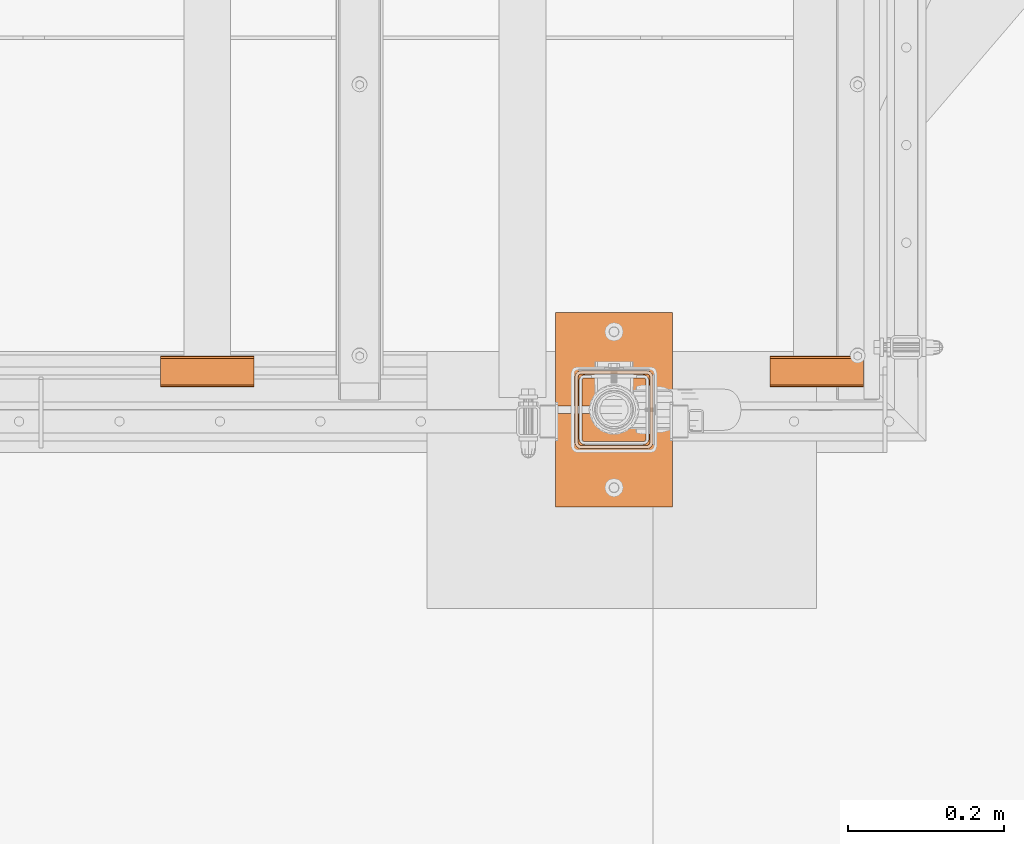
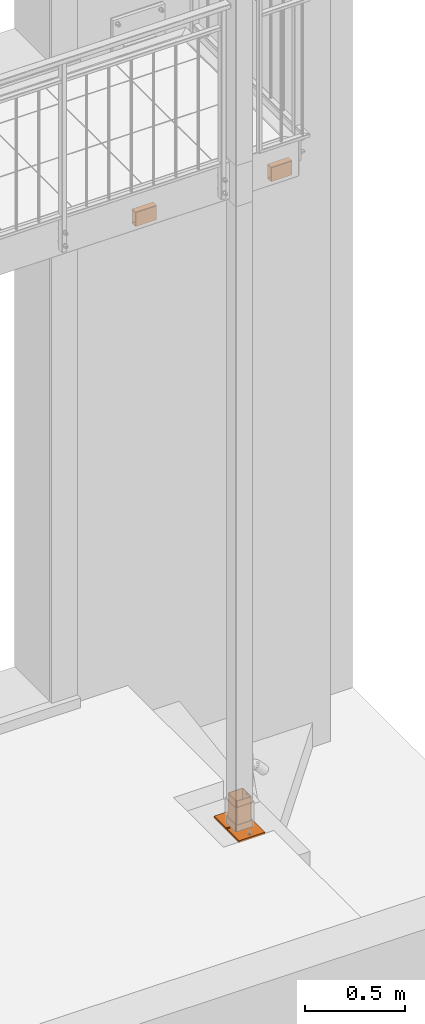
# One storey, part 91 of 162: 4 proxies.
"""IFC2X3 building model written with IfcOpenShell, lengths in millimetres."""

import ifcopenshell
import ifcopenshell.guid

model = None  # the IFC model being written
_history = None  # IfcOwnerHistory: only IFC2X3 demands one
_inside = {}  # id of a spatial element -> (the spatial element, [elements in it])
_under = {}  # id of a project, library or spatial element -> (it, [spatial elements below it])
_declared = {}  # id of a project -> (the project, [libraries it declares])
_typed = {}  # id of a type object -> (the type object, [elements of that type])
_made_of = {}  # id of a material, layer set ... -> (it, [elements and type objects made of it])


def new_model(schema):
    """Start an empty IFC model of exactly this schema.

    Asked for "IFC4X3", IfcOpenShell would pick the latest addendum, in which some entities
    have other attributes; the version numbers below select the first issue.
    IFC2X3 requires an IfcOwnerHistory on every rooted entity: one is made here for all.
    """
    global model, _history
    if schema == "IFC4X3":
        model = ifcopenshell.file(schema_version=(4, 3, 0, 0))
    else:
        model = ifcopenshell.file(schema=schema)
    _inside.clear()
    _under.clear()
    _declared.clear()
    _typed.clear()
    _made_of.clear()
    _history = None
    if model.schema == "IFC2X3":
        org = make("IfcOrganization", Name="unknown")
        user = make(
            "IfcPersonAndOrganization",
            ThePerson=make("IfcPerson", FamilyName="unknown"),
            TheOrganization=org,
        )
        app = make(
            "IfcApplication",
            ApplicationDeveloper=org,
            Version="unknown",
            ApplicationFullName="unknown",
            ApplicationIdentifier="unknown",
        )
        _history = make(
            "IfcOwnerHistory",
            OwningUser=user,
            OwningApplication=app,
            ChangeAction="ADDED",
            CreationDate=0,
        )
    return model


def make(cls, **values):
    """One entity of the class cls with the attributes given. An attribute that is None is left unset."""
    return model.create_entity(
        cls, **{name: value for name, value in values.items() if value is not None}
    )


def entity(cls, *values):
    """Any entity or typed value of the class cls, its attributes in the order of the schema. None: left unset."""
    e = model.create_entity(cls)
    for i, value in enumerate(values):
        if value is not None:
            e[i] = value
    return e


def rooted(cls, **values):
    """An entity with a GlobalId (a new one), such as an element, a storey or a relation."""
    return make(cls, GlobalId=ifcopenshell.guid.new(), OwnerHistory=_history, **values)


def si_unit(unit_type, name, prefix=None):
    """IfcSIUnit, for example si_unit("LENGTHUNIT", "METRE", prefix="MILLI")."""
    return make("IfcSIUnit", UnitType=unit_type, Prefix=prefix, Name=name)


def converted_unit(unit_type, name, factor, base, dimensions=None, offset=None):
    """IfcConversionBasedUnit, such as the inch: factor (a typed value) times the base unit."""
    return make(
        "IfcConversionBasedUnit"
        if offset is None
        else "IfcConversionBasedUnitWithOffset",
        ConversionOffset=offset,
        Dimensions=None
        if dimensions is None
        else entity("IfcDimensionalExponents", *dimensions),
        UnitType=unit_type,
        Name=name,
        ConversionFactor=make(
            "IfcMeasureWithUnit", ValueComponent=factor, UnitComponent=base
        ),
    )


def assignment(units):
    """IfcUnitAssignment: the units of a project."""
    return None if units is None else make("IfcUnitAssignment", Units=units)


def point(xyz):
    """IfcCartesianPoint."""
    return None if xyz is None else make("IfcCartesianPoint", Coordinates=xyz)


def direction(xyz):
    """IfcDirection."""
    return None if xyz is None else make("IfcDirection", DirectionRatios=xyz)


def frame(location, z_axis=None, x_axis=None):
    """IfcAxis2Placement3D, a coordinate frame: its origin and axes. An axis left out is left unset."""
    return make(
        "IfcAxis2Placement3D",
        Location=point(location),
        Axis=direction(z_axis),
        RefDirection=direction(x_axis),
    )


def origin_with_axes():
    """The frame at (0, 0, 0) with the z axis (0, 0, 1) and the x axis (1, 0, 0) written out."""
    return frame((0.0, 0.0, 0.0), z_axis=(0.0, 0.0, 1.0), x_axis=(1.0, 0.0, 0.0))


def place(relative_to, where):
    """IfcLocalPlacement: puts the frame where relative to a parent placement (None: the world)."""
    return make(
        "IfcLocalPlacement", PlacementRelTo=relative_to, RelativePlacement=where
    )


def context(
    kind, dimensions, precision=None, world=None, true_north=None, identifier=None
):
    """IfcGeometricRepresentationContext, for example the 3D "Model" context."""
    return make(
        "IfcGeometricRepresentationContext",
        ContextIdentifier=identifier,
        ContextType=kind,
        CoordinateSpaceDimension=dimensions,
        Precision=precision,
        WorldCoordinateSystem=world,
        TrueNorth=true_north,
    )


def project(units=None, contexts=None):
    """IfcProject with its units and contexts."""
    return rooted(
        "IfcProject",
        Name="project",
        RepresentationContexts=contexts,
        UnitsInContext=assignment(units),
    )


def spatial(cls, under=None, at=None, **own):
    """A site, building, storey or space (cls), placed at a placement, below another one or the project."""
    s = rooted(cls, ObjectPlacement=at, **own)
    if under is not None:
        _under.setdefault(under.id(), (under, []))[1].append(s)
    return s


def faces_of(points, faces, orient=None, outer=None):
    """IfcFace entities. A face is a list of loops; a loop is a list of indices into points, from 0.

    orient and outer hold one flag for each loop. By default every Orientation is true, the
    first loop of a face is its IfcFaceOuterBound and the others are IfcFaceBound.
    """
    made = []
    for i, loops in enumerate(faces):
        bounds = []
        for j, loop in enumerate(loops):
            is_outer = j == 0 if outer is None else outer[i][j]
            bounds.append(
                make(
                    "IfcFaceOuterBound" if is_outer else "IfcFaceBound",
                    Bound=make("IfcPolyLoop", Polygon=[points[k] for k in loop]),
                    Orientation=True if orient is None else orient[i][j],
                )
            )
        made.append(make("IfcFace", Bounds=bounds))
    return made


def faceted_brep(points, faces, orient=None, outer=None, voids=None):
    """IfcFacetedBrep: a solid bounded by flat faces; with voids (closed shells), ...WithVoids."""
    shared = [point(p) for p in points]
    hull = make("IfcClosedShell", CfsFaces=faces_of(shared, faces, orient, outer))
    if voids is None:
        return make("IfcFacetedBrep", Outer=hull)
    return make(
        "IfcFacetedBrepWithVoids",
        Outer=hull,
        Voids=[
            make(cls, CfsFaces=faces_of(shared, fs, o, b)) for cls, fs, o, b in voids
        ],
    )


def shape(context_of_items, identifier, shape_type, items):
    """IfcShapeRepresentation: the items that make up one representation, for example the "Body"."""
    return make(
        "IfcShapeRepresentation",
        ContextOfItems=context_of_items,
        RepresentationIdentifier=identifier,
        RepresentationType=shape_type,
        Items=items,
    )


def material(Name=None, Category=None):
    """IfcMaterial."""
    return make("IfcMaterial", Name=Name, Category=Category)


def made_of(thing, what):
    """Note that an element or type object is made of a material, layer set ...; save() writes the relation."""
    if what is not None:
        _made_of.setdefault(what.id(), (what, []))[1].append(thing)
    return thing


def element(
    cls,
    number,
    at=None,
    inside=None,
    cuts=None,
    type_object=None,
    material=None,
    context=None,
    identifier="Body",
    shape_type=None,
    held_by="IfcProductDefinitionShape",
    body=None,
    shapes=None,
    **own,
):
    """One element of the class cls, such as IfcWall. Its Tag is "e" and its number.

    at: its placement. inside: the storey or other place that contains it. cuts: it is an
    opening in that element (IfcRelVoidsElement). A single representation is given by context,
    identifier, shape_type and body (its items); several are given by shapes. held_by: the class
    of the entity that holds the representations. save() writes the other relations.
    """
    e = rooted(cls, Tag="e%d" % number, ObjectPlacement=at, **own)
    if body is not None:
        shapes = [shape(context, identifier, shape_type, body)]
    if shapes is not None:
        e.Representation = make(held_by, Representations=shapes)
    if inside is not None:
        _inside.setdefault(inside.id(), (inside, []))[1].append(e)
    if cuts is not None:
        rooted(
            "IfcRelVoidsElement", RelatingBuildingElement=cuts, RelatedOpeningElement=e
        )
    if type_object is not None:
        _typed.setdefault(type_object.id(), (type_object, []))[1].append(e)
    return made_of(e, material)


def aggregate(whole, parts):
    """IfcRelAggregates: a whole, such as a stair, and the parts it consists of."""
    return rooted("IfcRelAggregates", RelatingObject=whole, RelatedObjects=parts)


def save(model, path):
    """Write the relations noted so far, then the file.

    IfcRelAggregates (storeys below a building ...), IfcRelContainedInSpatialStructure (elements
    in a storey), IfcRelDefinesByType, IfcRelAssociatesMaterial and IfcRelDeclares: one each for
    every whole, place, type object, material and project.
    """
    for whole, parts in _under.values():
        aggregate(whole, parts)
    for where, things in _inside.values():
        rooted(
            "IfcRelContainedInSpatialStructure",
            RelatedElements=things,
            RelatingStructure=where,
        )
    for kind, things in _typed.values():
        rooted("IfcRelDefinesByType", RelatedObjects=things, RelatingType=kind)
    for what, things in _made_of.values():
        rooted("IfcRelAssociatesMaterial", RelatedObjects=things, RelatingMaterial=what)
    for by, libraries in _declared.values():
        rooted("IfcRelDeclares", RelatingContext=by, RelatedDefinitions=libraries)
    model.write(path)


model = new_model("IFC2X3")

# Units and contexts
model_context = context("Model", 3, precision=1e-09, world=origin_with_axes())
ifc_project = project(units=[si_unit("LENGTHUNIT", "METRE", prefix="MILLI"), si_unit("AREAUNIT", "SQUARE_METRE"), si_unit("VOLUMEUNIT", "CUBIC_METRE"), converted_unit("PLANEANGLEUNIT", "DEGREE", entity("IfcPlaneAngleMeasure", 0.01745329), si_unit("PLANEANGLEUNIT", "RADIAN"), dimensions=[0, 0, 0, 0, 0, 0, 0])], contexts=[model_context])

# Site, building, storey
site_placement = place(None, origin_with_axes())
site = spatial("IfcSite", under=ifc_project, at=site_placement, Name="Hermannstra?e 1a, 60318 Frankfurt", CompositionType="ELEMENT")
building_placement = place(site_placement, origin_with_axes())
building = spatial("IfcBuilding", under=site, at=building_placement, Name="Struktur 1", CompositionType="ELEMENT")
storey_placement = place(building_placement, origin_with_axes())
storey = spatial("IfcBuildingStorey", under=building, at=storey_placement, Name="Default Storey", CompositionType="ELEMENT", Elevation=0.0)

# Proxies
ifc_material_1 = material(Name="Kein")
proxy_1_placement = place(None, origin_with_axes())
element("IfcBuildingElementProxy", 1, at=proxy_1_placement, inside=storey, material=ifc_material_1, ObjectType="-", context=model_context, shape_type="Brep", body=[
    faceted_brep([(5427.845263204, 1486.609373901, -98.0), (5427.845263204, 1486.609373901, -78.0), (5429.30936482, 1485.145272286, -78.0), (5429.30936482, 1485.145272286, -98.0), (5424.381161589, 1484.609373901, -98.0), (5423.30936482, 1488.609373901, -98.0), (5423.30936482, 1572.609373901, -98.0), (5424.381161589, 1576.609373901, -98.0), (5427.30936482, 1579.537577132, -98.0), (5431.30936482, 1580.609373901, -98.0), (5515.30936482, 1580.609373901, -98.0), (5519.30936482, 1579.537577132, -98.0), (5522.23756805, 1576.609373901, -98.0), (5523.30936482, 1572.609373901, -98.0), (5523.30936482, 1488.609373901, -98.0), (5522.23756805, 1484.609373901, -98.0), (5519.30936482, 1481.681170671, -98.0), (5515.30936482, 1480.609373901, -98.0), (5431.30936482, 1480.609373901, -98.0), (5427.30936482, 1481.681170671, -98.0), (5427.30936482, 1572.609373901, -98.0), (5427.30936482, 1488.609373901, -98.0), (5431.30936482, 1484.609373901, -98.0), (5515.30936482, 1484.609373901, -98.0), (5517.30936482, 1485.145272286, -98.0), (5518.773466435, 1486.609373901, -98.0), (5519.30936482, 1488.609373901, -98.0), (5519.30936482, 1572.609373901, -98.0), (5518.773466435, 1574.609373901, -98.0), (5517.30936482, 1576.073475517, -98.0), (5515.30936482, 1576.609373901, -98.0), (5431.30936482, 1576.609373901, -98.0), (5429.30936482, 1576.073475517, -98.0), (5427.845263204, 1574.609373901, -98.0), (5424.381161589, 1484.609373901, -78.0), (5427.30936482, 1481.681170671, -78.0), (5431.30936482, 1480.609373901, -78.0), (5515.30936482, 1480.609373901, -78.0), (5519.30936482, 1481.681170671, -78.0), (5522.23756805, 1484.609373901, -78.0), (5523.30936482, 1488.609373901, -78.0), (5523.30936482, 1572.609373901, -78.0), (5522.23756805, 1576.609373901, -78.0), (5519.30936482, 1579.537577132, -78.0), (5515.30936482, 1580.609373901, -78.0), (5431.30936482, 1580.609373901, -78.0), (5427.30936482, 1579.537577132, -78.0), (5424.381161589, 1576.609373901, -78.0), (5423.30936482, 1572.609373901, -78.0), (5423.30936482, 1488.609373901, -78.0), (5431.30936482, 1484.609373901, -78.0), (5427.30936482, 1488.609373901, -78.0), (5427.30936482, 1572.609373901, -78.0), (5427.845263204, 1574.609373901, -78.0), (5429.30936482, 1576.073475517, -78.0), (5431.30936482, 1576.609373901, -78.0), (5515.30936482, 1576.609373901, -78.0), (5517.30936482, 1576.073475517, -78.0), (5518.773466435, 1574.609373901, -78.0), (5519.30936482, 1572.609373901, -78.0), (5519.30936482, 1488.609373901, -78.0), (5518.773466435, 1486.609373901, -78.0), (5517.30936482, 1485.145272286, -78.0), (5515.30936482, 1484.609373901, -78.0)], [[[0, 1, 2, 3]], [[4, 5, 6, 7, 8, 9, 10, 11, 12, 13, 14, 15, 16, 17, 18, 19], [20, 21, 0, 3, 22, 23, 24, 25, 26, 27, 28, 29, 30, 31, 32, 33]], [[34, 35, 36, 37, 38, 39, 40, 41, 42, 43, 44, 45, 46, 47, 48, 49], [50, 2, 1, 51, 52, 53, 54, 55, 56, 57, 58, 59, 60, 61, 62, 63]], [[34, 4, 19, 35]], [[1, 0, 21, 51]], [[4, 34, 49, 5]], [[35, 19, 18, 36]], [[3, 2, 50, 22]], [[21, 20, 52, 51]], [[49, 48, 6, 5]], [[18, 17, 37, 36]], [[50, 63, 23, 22]], [[52, 20, 33, 53]], [[6, 48, 47, 7]], [[37, 17, 16, 38]], [[23, 63, 62, 24]], [[53, 33, 32, 54]], [[7, 47, 46, 8]], [[38, 16, 15, 39]], [[24, 62, 61, 25]], [[54, 32, 31, 55]], [[25, 61, 60, 26]], [[8, 46, 45, 9]], [[39, 15, 14, 40]], [[60, 59, 27, 26]], [[31, 30, 56, 55]], [[45, 44, 10, 9]], [[58, 28, 27, 59]], [[14, 13, 41, 40]], [[28, 58, 57, 29]], [[29, 57, 56, 30]], [[10, 44, 43, 11]], [[41, 13, 12, 42]], [[11, 43, 42, 12]]]),
    faceted_brep([(5427.845263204, 1486.609373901, -78.0), (5427.845263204, 1486.609373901, -68.0), (5429.30936482, 1485.145272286, -68.0), (5429.30936482, 1485.145272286, -78.0), (5424.381161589, 1484.609373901, -78.0), (5423.30936482, 1488.609373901, -78.0), (5423.30936482, 1572.609373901, -78.0), (5424.381161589, 1576.609373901, -78.0), (5427.30936482, 1579.537577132, -78.0), (5431.30936482, 1580.609373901, -78.0), (5515.30936482, 1580.609373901, -78.0), (5519.30936482, 1579.537577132, -78.0), (5522.23756805, 1576.609373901, -78.0), (5523.30936482, 1572.609373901, -78.0), (5523.30936482, 1488.609373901, -78.0), (5522.23756805, 1484.609373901, -78.0), (5519.30936482, 1481.681170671, -78.0), (5515.30936482, 1480.609373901, -78.0), (5431.30936482, 1480.609373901, -78.0), (5427.30936482, 1481.681170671, -78.0), (5427.30936482, 1572.609373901, -78.0), (5427.30936482, 1488.609373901, -78.0), (5431.30936482, 1484.609373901, -78.0), (5515.30936482, 1484.609373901, -78.0), (5517.30936482, 1485.145272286, -78.0), (5518.773466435, 1486.609373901, -78.0), (5519.30936482, 1488.609373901, -78.0), (5519.30936482, 1572.609373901, -78.0), (5518.773466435, 1574.609373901, -78.0), (5517.30936482, 1576.073475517, -78.0), (5515.30936482, 1576.609373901, -78.0), (5431.30936482, 1576.609373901, -78.0), (5429.30936482, 1576.073475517, -78.0), (5427.845263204, 1574.609373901, -78.0), (5424.381161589, 1484.609373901, -68.0), (5427.30936482, 1481.681170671, -68.0), (5431.30936482, 1480.609373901, -68.0), (5515.30936482, 1480.609373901, -68.0), (5519.30936482, 1481.681170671, -68.0), (5522.23756805, 1484.609373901, -68.0), (5523.30936482, 1488.609373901, -68.0), (5523.30936482, 1572.609373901, -68.0), (5522.23756805, 1576.609373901, -68.0), (5519.30936482, 1579.537577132, -68.0), (5515.30936482, 1580.609373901, -68.0), (5431.30936482, 1580.609373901, -68.0), (5427.30936482, 1579.537577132, -68.0), (5424.381161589, 1576.609373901, -68.0), (5423.30936482, 1572.609373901, -68.0), (5423.30936482, 1488.609373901, -68.0), (5431.30936482, 1484.609373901, -68.0), (5427.30936482, 1488.609373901, -68.0), (5427.30936482, 1572.609373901, -68.0), (5427.845263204, 1574.609373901, -68.0), (5429.30936482, 1576.073475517, -68.0), (5431.30936482, 1576.609373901, -68.0), (5515.30936482, 1576.609373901, -68.0), (5517.30936482, 1576.073475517, -68.0), (5518.773466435, 1574.609373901, -68.0), (5519.30936482, 1572.609373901, -68.0), (5519.30936482, 1488.609373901, -68.0), (5518.773466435, 1486.609373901, -68.0), (5517.30936482, 1485.145272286, -68.0), (5515.30936482, 1484.609373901, -68.0)], [[[0, 1, 2, 3]], [[4, 5, 6, 7, 8, 9, 10, 11, 12, 13, 14, 15, 16, 17, 18, 19], [20, 21, 0, 3, 22, 23, 24, 25, 26, 27, 28, 29, 30, 31, 32, 33]], [[34, 35, 36, 37, 38, 39, 40, 41, 42, 43, 44, 45, 46, 47, 48, 49], [50, 2, 1, 51, 52, 53, 54, 55, 56, 57, 58, 59, 60, 61, 62, 63]], [[34, 4, 19, 35]], [[1, 0, 21, 51]], [[4, 34, 49, 5]], [[35, 19, 18, 36]], [[3, 2, 50, 22]], [[21, 20, 52, 51]], [[49, 48, 6, 5]], [[18, 17, 37, 36]], [[50, 63, 23, 22]], [[52, 20, 33, 53]], [[6, 48, 47, 7]], [[37, 17, 16, 38]], [[23, 63, 62, 24]], [[53, 33, 32, 54]], [[7, 47, 46, 8]], [[38, 16, 15, 39]], [[24, 62, 61, 25]], [[54, 32, 31, 55]], [[25, 61, 60, 26]], [[8, 46, 45, 9]], [[39, 15, 14, 40]], [[60, 59, 27, 26]], [[31, 30, 56, 55]], [[45, 44, 10, 9]], [[58, 28, 27, 59]], [[14, 13, 41, 40]], [[28, 58, 57, 29]], [[29, 57, 56, 30]], [[10, 44, 43, 11]], [[41, 13, 12, 42]], [[11, 43, 42, 12]]]),
    faceted_brep([(5427.845263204, 1486.609373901, -68.0), (5427.845263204, 1486.609373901, -63.0), (5429.30936482, 1485.145272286, -63.0), (5429.30936482, 1485.145272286, -68.0), (5424.381161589, 1484.609373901, -68.0), (5423.30936482, 1488.609373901, -68.0), (5423.30936482, 1572.609373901, -68.0), (5424.381161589, 1576.609373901, -68.0), (5427.30936482, 1579.537577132, -68.0), (5431.30936482, 1580.609373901, -68.0), (5515.30936482, 1580.609373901, -68.0), (5519.30936482, 1579.537577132, -68.0), (5522.23756805, 1576.609373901, -68.0), (5523.30936482, 1572.609373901, -68.0), (5523.30936482, 1488.609373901, -68.0), (5522.23756805, 1484.609373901, -68.0), (5519.30936482, 1481.681170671, -68.0), (5515.30936482, 1480.609373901, -68.0), (5431.30936482, 1480.609373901, -68.0), (5427.30936482, 1481.681170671, -68.0), (5427.30936482, 1572.609373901, -68.0), (5427.30936482, 1488.609373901, -68.0), (5431.30936482, 1484.609373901, -68.0), (5515.30936482, 1484.609373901, -68.0), (5517.30936482, 1485.145272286, -68.0), (5518.773466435, 1486.609373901, -68.0), (5519.30936482, 1488.609373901, -68.0), (5519.30936482, 1572.609373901, -68.0), (5518.773466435, 1574.609373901, -68.0), (5517.30936482, 1576.073475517, -68.0), (5515.30936482, 1576.609373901, -68.0), (5431.30936482, 1576.609373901, -68.0), (5429.30936482, 1576.073475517, -68.0), (5427.845263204, 1574.609373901, -68.0), (5424.381161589, 1484.609373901, -63.0), (5427.30936482, 1481.681170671, -63.0), (5431.30936482, 1480.609373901, -63.0), (5515.30936482, 1480.609373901, -63.0), (5519.30936482, 1481.681170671, -63.0), (5522.23756805, 1484.609373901, -63.0), (5523.30936482, 1488.609373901, -63.0), (5523.30936482, 1572.609373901, -63.0), (5522.23756805, 1576.609373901, -63.0), (5519.30936482, 1579.537577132, -63.0), (5515.30936482, 1580.609373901, -63.0), (5431.30936482, 1580.609373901, -63.0), (5427.30936482, 1579.537577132, -63.0), (5424.381161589, 1576.609373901, -63.0), (5423.30936482, 1572.609373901, -63.0), (5423.30936482, 1488.609373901, -63.0), (5431.30936482, 1484.609373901, -63.0), (5427.30936482, 1488.609373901, -63.0), (5427.30936482, 1572.609373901, -63.0), (5427.845263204, 1574.609373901, -63.0), (5429.30936482, 1576.073475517, -63.0), (5431.30936482, 1576.609373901, -63.0), (5515.30936482, 1576.609373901, -63.0), (5517.30936482, 1576.073475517, -63.0), (5518.773466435, 1574.609373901, -63.0), (5519.30936482, 1572.609373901, -63.0), (5519.30936482, 1488.609373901, -63.0), (5518.773466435, 1486.609373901, -63.0), (5517.30936482, 1485.145272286, -63.0), (5515.30936482, 1484.609373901, -63.0)], [[[0, 1, 2, 3]], [[4, 5, 6, 7, 8, 9, 10, 11, 12, 13, 14, 15, 16, 17, 18, 19], [20, 21, 0, 3, 22, 23, 24, 25, 26, 27, 28, 29, 30, 31, 32, 33]], [[34, 35, 36, 37, 38, 39, 40, 41, 42, 43, 44, 45, 46, 47, 48, 49], [50, 2, 1, 51, 52, 53, 54, 55, 56, 57, 58, 59, 60, 61, 62, 63]], [[34, 4, 19, 35]], [[1, 0, 21, 51]], [[4, 34, 49, 5]], [[35, 19, 18, 36]], [[3, 2, 50, 22]], [[21, 20, 52, 51]], [[49, 48, 6, 5]], [[18, 17, 37, 36]], [[50, 63, 23, 22]], [[52, 20, 33, 53]], [[6, 48, 47, 7]], [[37, 17, 16, 38]], [[23, 63, 62, 24]], [[53, 33, 32, 54]], [[7, 47, 46, 8]], [[38, 16, 15, 39]], [[24, 62, 61, 25]], [[54, 32, 31, 55]], [[25, 61, 60, 26]], [[8, 46, 45, 9]], [[39, 15, 14, 40]], [[60, 59, 27, 26]], [[31, 30, 56, 55]], [[45, 44, 10, 9]], [[58, 28, 27, 59]], [[14, 13, 41, 40]], [[28, 58, 57, 29]], [[29, 57, 56, 30]], [[10, 44, 43, 11]], [[41, 13, 12, 42]], [[11, 43, 42, 12]]]),
    faceted_brep([(5427.845263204, 1486.609373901, -63.0), (5427.845263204, 1486.609373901, -60.0), (5429.30936482, 1485.145272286, -60.0), (5429.30936482, 1485.145272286, -63.0), (5424.381161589, 1484.609373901, -63.0), (5423.30936482, 1488.609373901, -63.0), (5423.30936482, 1572.609373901, -63.0), (5424.381161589, 1576.609373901, -63.0), (5427.30936482, 1579.537577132, -63.0), (5431.30936482, 1580.609373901, -63.0), (5515.30936482, 1580.609373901, -63.0), (5519.30936482, 1579.537577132, -63.0), (5522.23756805, 1576.609373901, -63.0), (5523.30936482, 1572.609373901, -63.0), (5523.30936482, 1488.609373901, -63.0), (5522.23756805, 1484.609373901, -63.0), (5519.30936482, 1481.681170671, -63.0), (5515.30936482, 1480.609373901, -63.0), (5431.30936482, 1480.609373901, -63.0), (5427.30936482, 1481.681170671, -63.0), (5427.30936482, 1572.609373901, -63.0), (5427.30936482, 1488.609373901, -63.0), (5431.30936482, 1484.609373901, -63.0), (5515.30936482, 1484.609373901, -63.0), (5517.30936482, 1485.145272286, -63.0), (5518.773466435, 1486.609373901, -63.0), (5519.30936482, 1488.609373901, -63.0), (5519.30936482, 1572.609373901, -63.0), (5518.773466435, 1574.609373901, -63.0), (5517.30936482, 1576.073475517, -63.0), (5515.30936482, 1576.609373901, -63.0), (5431.30936482, 1576.609373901, -63.0), (5429.30936482, 1576.073475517, -63.0), (5427.845263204, 1574.609373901, -63.0), (5424.381161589, 1484.609373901, -60.0), (5427.30936482, 1481.681170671, -60.0), (5431.30936482, 1480.609373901, -60.0), (5515.30936482, 1480.609373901, -60.0), (5519.30936482, 1481.681170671, -60.0), (5522.23756805, 1484.609373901, -60.0), (5523.30936482, 1488.609373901, -60.0), (5523.30936482, 1572.609373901, -60.0), (5522.23756805, 1576.609373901, -60.0), (5519.30936482, 1579.537577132, -60.0), (5515.30936482, 1580.609373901, -60.0), (5431.30936482, 1580.609373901, -60.0), (5427.30936482, 1579.537577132, -60.0), (5424.381161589, 1576.609373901, -60.0), (5423.30936482, 1572.609373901, -60.0), (5423.30936482, 1488.609373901, -60.0), (5431.30936482, 1484.609373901, -60.0), (5427.30936482, 1488.609373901, -60.0), (5427.30936482, 1572.609373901, -60.0), (5427.845263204, 1574.609373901, -60.0), (5429.30936482, 1576.073475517, -60.0), (5431.30936482, 1576.609373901, -60.0), (5515.30936482, 1576.609373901, -60.0), (5517.30936482, 1576.073475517, -60.0), (5518.773466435, 1574.609373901, -60.0), (5519.30936482, 1572.609373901, -60.0), (5519.30936482, 1488.609373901, -60.0), (5518.773466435, 1486.609373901, -60.0), (5517.30936482, 1485.145272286, -60.0), (5515.30936482, 1484.609373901, -60.0)], [[[0, 1, 2, 3]], [[4, 5, 6, 7, 8, 9, 10, 11, 12, 13, 14, 15, 16, 17, 18, 19], [20, 21, 0, 3, 22, 23, 24, 25, 26, 27, 28, 29, 30, 31, 32, 33]], [[34, 35, 36, 37, 38, 39, 40, 41, 42, 43, 44, 45, 46, 47, 48, 49], [50, 2, 1, 51, 52, 53, 54, 55, 56, 57, 58, 59, 60, 61, 62, 63]], [[34, 4, 19, 35]], [[1, 0, 21, 51]], [[4, 34, 49, 5]], [[35, 19, 18, 36]], [[3, 2, 50, 22]], [[21, 20, 52, 51]], [[49, 48, 6, 5]], [[18, 17, 37, 36]], [[50, 63, 23, 22]], [[52, 20, 33, 53]], [[6, 48, 47, 7]], [[37, 17, 16, 38]], [[23, 63, 62, 24]], [[53, 33, 32, 54]], [[7, 47, 46, 8]], [[38, 16, 15, 39]], [[24, 62, 61, 25]], [[54, 32, 31, 55]], [[25, 61, 60, 26]], [[8, 46, 45, 9]], [[39, 15, 14, 40]], [[60, 59, 27, 26]], [[31, 30, 56, 55]], [[45, 44, 10, 9]], [[58, 28, 27, 59]], [[14, 13, 41, 40]], [[28, 58, 57, 29]], [[29, 57, 56, 30]], [[10, 44, 43, 11]], [[41, 13, 12, 42]], [[11, 43, 42, 12]]]),
])
proxy_2_placement = place(None, origin_with_axes())
element("IfcBuildingElementProxy", 2, at=proxy_2_placement, inside=storey, material=ifc_material_1, ObjectType="-", context=model_context, shape_type="Brep", body=[
    faceted_brep([(5473.30936482, 1422.608373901, -98.0), (5473.30936482, 1422.608373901, -110.0), (5469.30886482, 1423.680304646, -110.0), (5469.30886482, 1423.680304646, -98.0), (5466.380295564, 1426.608873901, -110.0), (5466.380295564, 1426.608873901, -98.0), (5477.30986482, 1423.680304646, -98.0), (5477.30986482, 1423.680304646, -110.0), (5480.238434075, 1426.608873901, -98.0), (5480.238434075, 1426.608873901, -110.0), (5548.30936482, 1405.609373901, -98.0), (5548.30936482, 1525.609373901, -98.0), (5398.30936482, 1525.609373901, -98.0), (5398.30936482, 1405.609373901, -98.0), (5465.30836482, 1430.609373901, -98.0), (5466.380295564, 1434.609873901, -98.0), (5469.30886482, 1437.538443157, -98.0), (5473.30936482, 1438.610373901, -98.0), (5477.30986482, 1437.538443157, -98.0), (5480.238434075, 1434.609873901, -98.0), (5481.31036482, 1430.609373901, -98.0), (5465.30836482, 1430.609373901, -110.0), (5398.30936482, 1405.609373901, -110.0), (5398.30936482, 1525.609373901, -110.0), (5548.30936482, 1525.609373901, -110.0), (5548.30936482, 1405.609373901, -110.0), (5466.380295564, 1434.609873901, -110.0), (5481.31036482, 1430.609373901, -110.0), (5480.238434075, 1434.609873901, -110.0), (5477.30986482, 1437.538443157, -110.0), (5473.30936482, 1438.610373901, -110.0), (5469.30886482, 1437.538443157, -110.0)], [[[0, 1, 2, 3]], [[3, 2, 4, 5]], [[1, 0, 6, 7]], [[7, 6, 8, 9]], [[10, 11, 12, 13], [8, 6, 0, 3, 5, 14, 15, 16, 17, 18, 19, 20]], [[5, 4, 21, 14]], [[22, 23, 24, 25], [26, 21, 4, 2, 1, 7, 9, 27, 28, 29, 30, 31]], [[9, 8, 20, 27]], [[14, 21, 26, 15]], [[10, 13, 22, 25]], [[27, 20, 19, 28]], [[25, 24, 11, 10]], [[13, 12, 23, 22]], [[15, 26, 31, 16]], [[24, 23, 12, 11]], [[28, 19, 18, 29]], [[16, 31, 30, 17]], [[29, 18, 17, 30]]]),
    faceted_brep([(5473.30936482, 1622.608373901, -98.0), (5473.30936482, 1622.608373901, -110.0), (5469.30886482, 1623.680304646, -110.0), (5469.30886482, 1623.680304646, -98.0), (5466.380295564, 1626.608873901, -110.0), (5466.380295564, 1626.608873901, -98.0), (5548.30936482, 1535.609373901, -98.0), (5548.30936482, 1655.609373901, -98.0), (5398.30936482, 1655.609373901, -98.0), (5398.30936482, 1535.609373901, -98.0), (5480.238434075, 1626.608873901, -98.0), (5477.30986482, 1623.680304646, -98.0), (5465.30836482, 1630.609373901, -98.0), (5466.380295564, 1634.609873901, -98.0), (5469.30886482, 1637.538443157, -98.0), (5473.30936482, 1638.610373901, -98.0), (5477.30986482, 1637.538443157, -98.0), (5480.238434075, 1634.609873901, -98.0), (5481.31036482, 1630.609373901, -98.0), (5477.30986482, 1623.680304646, -110.0), (5465.30836482, 1630.609373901, -110.0), (5398.30936482, 1535.609373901, -110.0), (5398.30936482, 1655.609373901, -110.0), (5548.30936482, 1655.609373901, -110.0), (5548.30936482, 1535.609373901, -110.0), (5480.238434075, 1626.608873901, -110.0), (5481.31036482, 1630.609373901, -110.0), (5480.238434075, 1634.609873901, -110.0), (5477.30986482, 1637.538443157, -110.0), (5473.30936482, 1638.610373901, -110.0), (5469.30886482, 1637.538443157, -110.0), (5466.380295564, 1634.609873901, -110.0)], [[[0, 1, 2, 3]], [[3, 2, 4, 5]], [[6, 7, 8, 9], [10, 11, 0, 3, 5, 12, 13, 14, 15, 16, 17, 18]], [[1, 0, 11, 19]], [[5, 4, 20, 12]], [[21, 22, 23, 24], [20, 4, 2, 1, 19, 25, 26, 27, 28, 29, 30, 31]], [[19, 11, 10, 25]], [[12, 20, 31, 13]], [[21, 24, 6, 9]], [[9, 8, 22, 21]], [[24, 23, 7, 6]], [[25, 10, 18, 26]], [[13, 31, 30, 14]], [[26, 18, 17, 27]], [[8, 7, 23, 22]], [[14, 30, 29, 15]], [[27, 17, 16, 28]], [[15, 29, 28, 16]]]),
    faceted_brep([(5432.30936482, 1486.681170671, -98.0), (5432.30936482, 1486.681170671, 82.0), (5429.381161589, 1489.609373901, 82.0), (5429.381161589, 1489.609373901, -98.0), (5436.30936482, 1485.609373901, 82.0), (5510.30936482, 1485.609373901, 82.0), (5514.30936482, 1486.681170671, 82.0), (5517.23756805, 1489.609373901, 82.0), (5518.30936482, 1493.609373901, 82.0), (5518.30936482, 1567.609373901, 82.0), (5517.23756805, 1571.609373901, 82.0), (5514.30936482, 1574.537577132, 82.0), (5510.30936482, 1575.609373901, 82.0), (5436.30936482, 1575.609373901, 82.0), (5432.30936482, 1574.537577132, 82.0), (5429.381161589, 1571.609373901, 82.0), (5428.30936482, 1567.609373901, 82.0), (5428.30936482, 1493.609373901, 82.0), (5436.30936482, 1489.609373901, 82.0), (5434.30936482, 1490.145272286, 82.0), (5432.845263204, 1491.609373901, 82.0), (5432.30936482, 1493.609373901, 82.0), (5432.30936482, 1567.609373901, 82.0), (5432.845263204, 1569.609373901, 82.0), (5434.30936482, 1571.073475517, 82.0), (5436.30936482, 1571.609373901, 82.0), (5510.30936482, 1571.609373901, 82.0), (5512.30936482, 1571.073475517, 82.0), (5513.773466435, 1569.609373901, 82.0), (5514.30936482, 1567.609373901, 82.0), (5514.30936482, 1493.609373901, 82.0), (5513.773466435, 1491.609373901, 82.0), (5512.30936482, 1490.145272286, 82.0), (5510.30936482, 1489.609373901, 82.0), (5432.845263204, 1491.609373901, -98.0), (5434.30936482, 1490.145272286, -98.0), (5510.30936482, 1485.609373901, -98.0), (5436.30936482, 1485.609373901, -98.0), (5428.30936482, 1493.609373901, -98.0), (5428.30936482, 1567.609373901, -98.0), (5429.381161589, 1571.609373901, -98.0), (5432.30936482, 1574.537577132, -98.0), (5436.30936482, 1575.609373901, -98.0), (5510.30936482, 1575.609373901, -98.0), (5514.30936482, 1574.537577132, -98.0), (5517.23756805, 1571.609373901, -98.0), (5518.30936482, 1567.609373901, -98.0), (5518.30936482, 1493.609373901, -98.0), (5517.23756805, 1489.609373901, -98.0), (5514.30936482, 1486.681170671, -98.0), (5436.30936482, 1489.609373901, -98.0), (5510.30936482, 1489.609373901, -98.0), (5512.30936482, 1490.145272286, -98.0), (5513.773466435, 1491.609373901, -98.0), (5514.30936482, 1493.609373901, -98.0), (5514.30936482, 1567.609373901, -98.0), (5513.773466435, 1569.609373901, -98.0), (5512.30936482, 1571.073475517, -98.0), (5510.30936482, 1571.609373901, -98.0), (5436.30936482, 1571.609373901, -98.0), (5434.30936482, 1571.073475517, -98.0), (5432.845263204, 1569.609373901, -98.0), (5432.30936482, 1567.609373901, -98.0), (5432.30936482, 1493.609373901, -98.0), (5518.30936482, 1525.608373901, 72.0), (5514.30936482, 1525.608373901, 72.0), (5514.30936482, 1526.278380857, 74.5005), (5518.30936482, 1526.278380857, 74.5005), (5518.30936482, 1526.278380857, 69.4995), (5514.30936482, 1526.278380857, 69.4995), (5514.30936482, 1528.108873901, 76.330993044), (5518.30936482, 1528.108873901, 76.330993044), (5518.30936482, 1528.108873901, 67.669006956), (5518.30936482, 1530.609373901, 77.001), (5518.30936482, 1533.109873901, 76.330993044), (5518.30936482, 1534.940366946, 74.5005), (5518.30936482, 1535.610373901, 72.0), (5518.30936482, 1534.940366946, 69.4995), (5518.30936482, 1533.109873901, 67.669006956), (5518.30936482, 1530.609373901, 66.999), (5514.30936482, 1528.108873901, 67.669006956), (5514.30936482, 1530.609373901, 66.999), (5514.30936482, 1533.109873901, 67.669006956), (5514.30936482, 1534.940366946, 69.4995), (5514.30936482, 1535.610373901, 72.0), (5514.30936482, 1534.940366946, 74.5005), (5514.30936482, 1533.109873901, 76.330993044), (5514.30936482, 1530.609373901, 77.001)], [[[0, 1, 2, 3]], [[1, 4, 5, 6, 7, 8, 9, 10, 11, 12, 13, 14, 15, 16, 17, 2], [18, 19, 20, 21, 22, 23, 24, 25, 26, 27, 28, 29, 30, 31, 32, 33]], [[34, 20, 19, 35]], [[36, 37, 0, 3, 38, 39, 40, 41, 42, 43, 44, 45, 46, 47, 48, 49], [35, 50, 51, 52, 53, 54, 55, 56, 57, 58, 59, 60, 61, 62, 63, 34]], [[1, 0, 37, 4]], [[20, 34, 63, 21]], [[3, 2, 17, 38]], [[35, 19, 18, 50]], [[37, 36, 5, 4]], [[63, 62, 22, 21]], [[17, 16, 39, 38]], [[18, 33, 51, 50]], [[5, 36, 49, 6]], [[22, 62, 61, 23]], [[39, 16, 15, 40]], [[64, 65, 66, 67]], [[51, 33, 32, 52]], [[65, 64, 68, 69]], [[67, 66, 70, 71]], [[8, 47, 46, 9], [72, 68, 64, 67, 71, 73, 74, 75, 76, 77, 78, 79]], [[6, 49, 48, 7]], [[52, 32, 31, 53]], [[30, 29, 55, 54], [70, 66, 65, 69, 80, 81, 82, 83, 84, 85, 86, 87]], [[23, 61, 60, 24]], [[40, 15, 14, 41]], [[71, 70, 87, 73]], [[73, 87, 86, 74]], [[30, 54, 53, 31]], [[69, 68, 72, 80]], [[74, 86, 85, 75]], [[7, 48, 47, 8]], [[80, 72, 79, 81]], [[81, 79, 78, 82]], [[24, 60, 59, 25]], [[41, 14, 13, 42]], [[75, 85, 84, 76]], [[83, 77, 76, 84]], [[82, 78, 77, 83]], [[59, 58, 26, 25]], [[13, 12, 43, 42]], [[26, 58, 57, 27]], [[55, 29, 28, 56]], [[56, 28, 27, 57]], [[43, 12, 11, 44]], [[9, 46, 45, 10]], [[44, 11, 10, 45]]]),
])
ifc_material_2 = material(Name="Alu")
proxy_3_placement = place(None, origin_with_axes())
element("IfcBuildingElementProxy", 3, at=proxy_3_placement, inside=storey, material=ifc_material_2, ObjectType="-", context=model_context, shape_type="Brep", body=[
    faceted_brep([(5011.55936482, 1596.609373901, 3730.803847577), (5011.55936482, 1598.805526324, 3733.0), (5011.55936482, 1599.609373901, 3736.0), (5011.55936482, 1599.609373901, 3814.0), (5011.55936482, 1598.805526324, 3817.0), (5011.55936482, 1596.609373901, 3819.196152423), (5011.55936482, 1593.609373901, 3820.0), (5011.55936482, 1565.609373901, 3820.0), (5011.55936482, 1562.609373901, 3819.196152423), (5011.55936482, 1560.413221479, 3817.0), (5011.55936482, 1559.609373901, 3814.0), (5011.55936482, 1559.609373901, 3736.0), (5011.55936482, 1560.413221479, 3733.0), (5011.55936482, 1562.609373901, 3730.803847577), (5011.55936482, 1565.609373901, 3730.0), (5011.55936482, 1593.609373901, 3730.0), (5011.55936482, 1596.609373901, 3736.0), (5011.55936482, 1596.207450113, 3734.5), (5011.55936482, 1595.109373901, 3733.401923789), (5011.55936482, 1593.609373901, 3733.0), (5011.55936482, 1565.609373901, 3733.0), (5011.55936482, 1564.109373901, 3733.401923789), (5011.55936482, 1563.01129769, 3734.5), (5011.55936482, 1562.609373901, 3736.0), (5011.55936482, 1562.609373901, 3814.0), (5011.55936482, 1563.01129769, 3815.5), (5011.55936482, 1564.109373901, 3816.598076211), (5011.55936482, 1565.609373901, 3817.0), (5011.55936482, 1593.609373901, 3817.0), (5011.55936482, 1595.109373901, 3816.598076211), (5011.55936482, 1596.207450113, 3815.5), (5011.55936482, 1596.609373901, 3814.0), (4891.55936482, 1596.609373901, 3736.0), (4891.55936482, 1596.207450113, 3734.5), (4891.55936482, 1599.609373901, 3736.0), (4891.55936482, 1598.805526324, 3733.0), (4891.55936482, 1598.805526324, 3817.0), (4891.55936482, 1599.609373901, 3814.0), (4891.55936482, 1596.609373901, 3730.803847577), (4891.55936482, 1593.609373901, 3730.0), (4891.55936482, 1565.609373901, 3730.0), (4891.55936482, 1562.609373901, 3730.803847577), (4891.55936482, 1560.413221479, 3733.0), (4891.55936482, 1559.609373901, 3736.0), (4891.55936482, 1559.609373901, 3814.0), (4891.55936482, 1560.413221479, 3817.0), (4891.55936482, 1562.609373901, 3819.196152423), (4891.55936482, 1565.609373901, 3820.0), (4891.55936482, 1593.609373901, 3820.0), (4891.55936482, 1596.609373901, 3819.196152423), (4891.55936482, 1596.609373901, 3814.0), (4891.55936482, 1596.207450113, 3815.5), (4891.55936482, 1595.109373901, 3816.598076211), (4891.55936482, 1593.609373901, 3817.0), (4891.55936482, 1565.609373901, 3817.0), (4891.55936482, 1564.109373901, 3816.598076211), (4891.55936482, 1563.01129769, 3815.5), (4891.55936482, 1562.609373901, 3814.0), (4891.55936482, 1562.609373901, 3736.0), (4891.55936482, 1563.01129769, 3734.5), (4891.55936482, 1564.109373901, 3733.401923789), (4891.55936482, 1565.609373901, 3733.0), (4891.55936482, 1593.609373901, 3733.0), (4891.55936482, 1595.109373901, 3733.401923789)], [[[0, 1, 2, 3, 4, 5, 6, 7, 8, 9, 10, 11, 12, 13, 14, 15], [16, 17, 18, 19, 20, 21, 22, 23, 24, 25, 26, 27, 28, 29, 30, 31]], [[16, 32, 33, 17]], [[34, 2, 1, 35]], [[36, 37, 34, 35, 38, 39, 40, 41, 42, 43, 44, 45, 46, 47, 48, 49], [50, 51, 52, 53, 54, 55, 56, 57, 58, 59, 60, 61, 62, 63, 33, 32]], [[16, 31, 50, 32]], [[34, 37, 3, 2]], [[3, 37, 36, 4]], [[17, 33, 63, 18]], [[35, 1, 0, 38]], [[50, 31, 30, 51]], [[4, 36, 49, 5]], [[18, 63, 62, 19]], [[38, 0, 15, 39]], [[51, 30, 29, 52]], [[5, 49, 48, 6]], [[62, 61, 20, 19]], [[15, 14, 40, 39]], [[52, 29, 28, 53]], [[48, 47, 7, 6]], [[28, 27, 54, 53]], [[20, 61, 60, 21]], [[40, 14, 13, 41]], [[7, 47, 46, 8]], [[54, 27, 26, 55]], [[21, 60, 59, 22]], [[41, 13, 12, 42]], [[11, 43, 42, 12]], [[8, 46, 45, 9]], [[55, 26, 25, 56]], [[22, 59, 58, 23]], [[11, 10, 44, 43]], [[24, 57, 56, 25]], [[24, 23, 58, 57]], [[9, 45, 44, 10]]]),
])
proxy_4_placement = place(None, origin_with_axes())
element("IfcBuildingElementProxy", 4, at=proxy_4_placement, inside=storey, material=ifc_material_2, ObjectType="-", context=model_context, shape_type="Brep", body=[
    faceted_brep([(5793.30936482, 1596.609373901, 3730.803847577), (5793.30936482, 1598.805526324, 3733.0), (5793.30936482, 1599.609373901, 3736.0), (5793.30936482, 1599.609373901, 3814.0), (5793.30936482, 1598.805526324, 3817.0), (5793.30936482, 1596.609373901, 3819.196152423), (5793.30936482, 1593.609373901, 3820.0), (5793.30936482, 1565.609373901, 3820.0), (5793.30936482, 1562.609373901, 3819.196152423), (5793.30936482, 1560.413221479, 3817.0), (5793.30936482, 1559.609373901, 3814.0), (5793.30936482, 1559.609373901, 3736.0), (5793.30936482, 1560.413221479, 3733.0), (5793.30936482, 1562.609373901, 3730.803847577), (5793.30936482, 1565.609373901, 3730.0), (5793.30936482, 1593.609373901, 3730.0), (5793.30936482, 1596.609373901, 3736.0), (5793.30936482, 1596.207450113, 3734.5), (5793.30936482, 1595.109373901, 3733.401923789), (5793.30936482, 1593.609373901, 3733.0), (5793.30936482, 1565.609373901, 3733.0), (5793.30936482, 1564.109373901, 3733.401923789), (5793.30936482, 1563.01129769, 3734.5), (5793.30936482, 1562.609373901, 3736.0), (5793.30936482, 1562.609373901, 3814.0), (5793.30936482, 1563.01129769, 3815.5), (5793.30936482, 1564.109373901, 3816.598076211), (5793.30936482, 1565.609373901, 3817.0), (5793.30936482, 1593.609373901, 3817.0), (5793.30936482, 1595.109373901, 3816.598076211), (5793.30936482, 1596.207450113, 3815.5), (5793.30936482, 1596.609373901, 3814.0), (5673.30936482, 1596.609373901, 3736.0), (5673.30936482, 1596.207450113, 3734.5), (5673.30936482, 1599.609373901, 3736.0), (5673.30936482, 1598.805526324, 3733.0), (5673.30936482, 1598.805526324, 3817.0), (5673.30936482, 1599.609373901, 3814.0), (5673.30936482, 1596.609373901, 3730.803847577), (5673.30936482, 1593.609373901, 3730.0), (5673.30936482, 1565.609373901, 3730.0), (5673.30936482, 1562.609373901, 3730.803847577), (5673.30936482, 1560.413221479, 3733.0), (5673.30936482, 1559.609373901, 3736.0), (5673.30936482, 1559.609373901, 3814.0), (5673.30936482, 1560.413221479, 3817.0), (5673.30936482, 1562.609373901, 3819.196152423), (5673.30936482, 1565.609373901, 3820.0), (5673.30936482, 1593.609373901, 3820.0), (5673.30936482, 1596.609373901, 3819.196152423), (5673.30936482, 1596.609373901, 3814.0), (5673.30936482, 1596.207450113, 3815.5), (5673.30936482, 1595.109373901, 3816.598076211), (5673.30936482, 1593.609373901, 3817.0), (5673.30936482, 1565.609373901, 3817.0), (5673.30936482, 1564.109373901, 3816.598076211), (5673.30936482, 1563.01129769, 3815.5), (5673.30936482, 1562.609373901, 3814.0), (5673.30936482, 1562.609373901, 3736.0), (5673.30936482, 1563.01129769, 3734.5), (5673.30936482, 1564.109373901, 3733.401923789), (5673.30936482, 1565.609373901, 3733.0), (5673.30936482, 1593.609373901, 3733.0), (5673.30936482, 1595.109373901, 3733.401923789)], [[[0, 1, 2, 3, 4, 5, 6, 7, 8, 9, 10, 11, 12, 13, 14, 15], [16, 17, 18, 19, 20, 21, 22, 23, 24, 25, 26, 27, 28, 29, 30, 31]], [[16, 32, 33, 17]], [[34, 2, 1, 35]], [[36, 37, 34, 35, 38, 39, 40, 41, 42, 43, 44, 45, 46, 47, 48, 49], [50, 51, 52, 53, 54, 55, 56, 57, 58, 59, 60, 61, 62, 63, 33, 32]], [[16, 31, 50, 32]], [[34, 37, 3, 2]], [[3, 37, 36, 4]], [[17, 33, 63, 18]], [[35, 1, 0, 38]], [[50, 31, 30, 51]], [[4, 36, 49, 5]], [[18, 63, 62, 19]], [[38, 0, 15, 39]], [[51, 30, 29, 52]], [[5, 49, 48, 6]], [[62, 61, 20, 19]], [[15, 14, 40, 39]], [[52, 29, 28, 53]], [[48, 47, 7, 6]], [[28, 27, 54, 53]], [[20, 61, 60, 21]], [[40, 14, 13, 41]], [[7, 47, 46, 8]], [[54, 27, 26, 55]], [[21, 60, 59, 22]], [[41, 13, 12, 42]], [[11, 43, 42, 12]], [[8, 46, 45, 9]], [[55, 26, 25, 56]], [[22, 59, 58, 23]], [[11, 10, 44, 43]], [[24, 57, 56, 25]], [[24, 23, 58, 57]], [[9, 45, 44, 10]]]),
])

save(model, "model.ifc")
